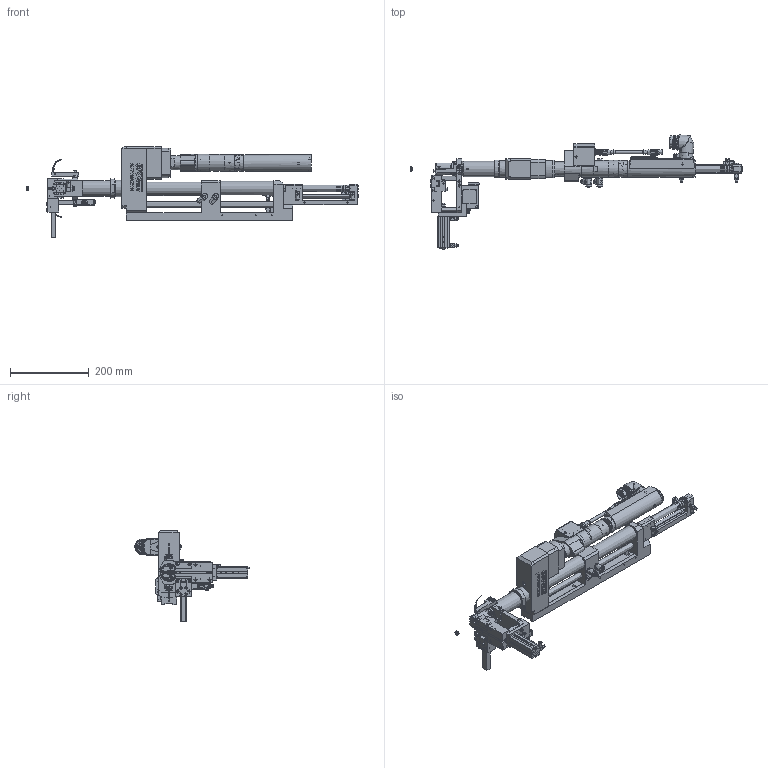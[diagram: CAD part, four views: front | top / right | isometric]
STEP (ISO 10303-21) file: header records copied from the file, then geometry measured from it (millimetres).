
FILE_DESCRIPTION(/* description */ (''),/* implementation_level */ '2;1');
FILE_NAME(/* name */ 'G:\Modelle für Marketing\MKT-SEM32.stp',/* time_stamp */ '2017-03-24T08:48:39+01:00',/* author */ ('wolf'),/* organization */ (''),/* preprocessor_version */ 'ST-DEVELOPER v15.2',/* originating_system */ 'Autodesk Inventor 2014',/* authorisation */ '');
FILE_SCHEMA (('AUTOMOTIVE_DESIGN { 1 0 10303 214 3 1 1 }'));
Products named in the file (1): MKT-SEM32
Bounding box: 844.3 x 290.65 x 232 mm (x, y, z)
Volume: 2205634.4 mm3; surface area: 785004.8 mm2
Topology: 67 solids, 223 shells, 7361 faces, 18748 edges, 12109 vertices
Faces by surface type: plane 3915, cylinder 1882, cone 762, torus 374, bspline 348, sphere 80
Full cylindrical faces by diameter (mm): 0.6 x36, 0.7 x24, 0.9 x16, 1 x24, 1.2 x1, 1.5 x9, 1.6 x9, 1.7 x8, 1.8 x4, 2 x17, 2.013 x2, 2.03 x7, 2.2 x2, 2.3 x2, 2.38 x1, 2.4 x3, 2.42 x1, 2.459 x6, 2.49 x7, 2.5 x13, 2.6 x6, 2.67 x5, 2.68 x7, 2.7 x1, 3 x21, 3.02 x2, 3.1 x1, 3.2 x7, 3.242 x36, 3.295 x10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
Entity records: 256993 total; most frequent: CARTESIAN_POINT 84991, DIRECTION 33069, ORIENTED_EDGE 32502, EDGE_CURVE 16252, AXIS2_PLACEMENT_3D 12296, VERTEX_POINT 11345, EDGE_LOOP 9955, LINE 8477
